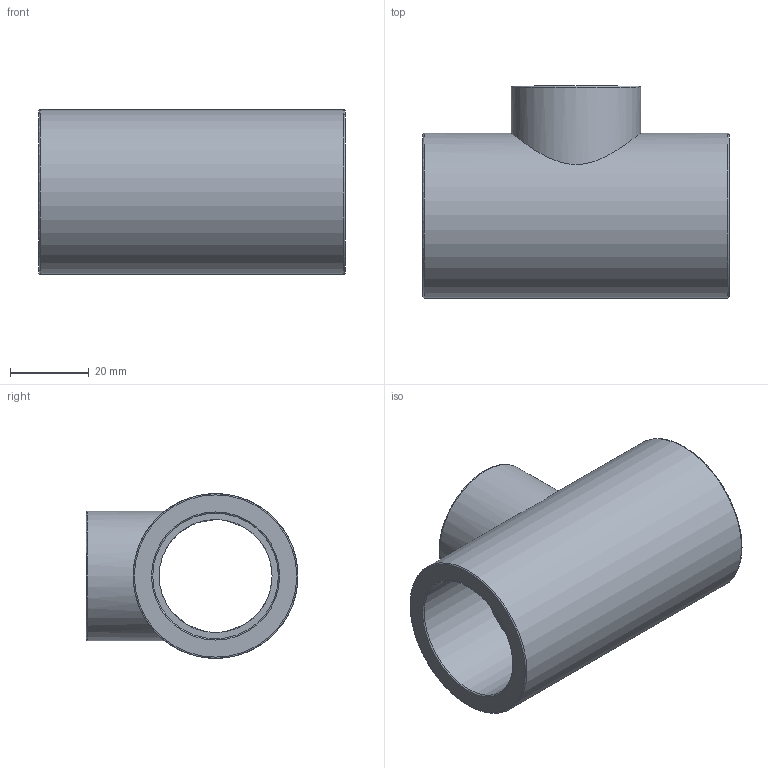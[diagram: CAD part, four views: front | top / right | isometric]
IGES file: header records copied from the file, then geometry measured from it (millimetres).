
Global section: file name: 051400032020.ipt; native system: Autodesk Inventor 2015; preprocessor: unknown; author: KIM; date: 20171207.165210; units: millimetre
Bounding box: 78 x 54 x 42 mm (x, y, z)
Volume: 56422.5 mm3; surface area: 21433.2 mm2
Topology: 1 solids, 1 shells, 19 faces, 58 edges, 44 vertices
Faces by surface type: revolution 11, plane 6, cylinder 2
Full cylindrical faces by diameter (mm): 33 x1, 42 x1
